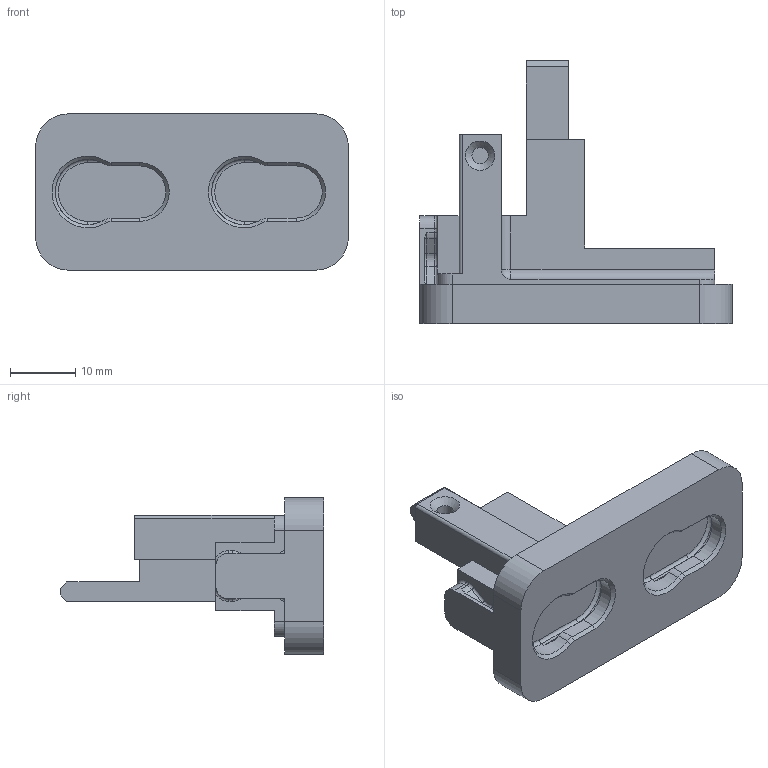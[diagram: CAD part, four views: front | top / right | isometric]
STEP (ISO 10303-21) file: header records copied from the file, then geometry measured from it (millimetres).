
FILE_DESCRIPTION(/* description */ ('STEP AP242 Edition 2','CAx-IF Rec.Pracs.---Representation and Presentation of Product Manufacturing Information (PMI)---4.0---2014-10-13','CAx-IF Rec.Pracs.---3D Tessellated Geometry---0.4---2014-09-14','2;1','CAx-IF Rec.Pracs.---User Defined Attributes---1.5---2016-08-15'),/* implementation_level */ '2;1');
FILE_NAME(/* name */ 'bb_v3 - bb-structure',/* time_stamp */ '2026-05-01T07:59:49Z',/* author */ (''),/* organization */ (''),/* preprocessor_version */ 'ST-DEVELOPER v20',/* originating_system */ 'ONSHAPE BY PTC INC, 1.214',/* authorisation */ ' ');
FILE_SCHEMA (('AP242_MANAGED_MODEL_BASED_3D_ENGINEERING_MIM_LF { 1 0 10303 442 3 1 4 }'));
Length unit declared in the file: metre
Products named in the file (1): bb-structure
Bounding box: 48 x 40.43 x 24 mm (x, y, z)
Volume: 10138.7 mm3; surface area: 5645.3 mm2
Topology: 1 solids, 1 shells, 137 faces, 346 edges, 215 vertices
Faces by surface type: plane 61, cylinder 50, torus 16, cone 9, sphere 1
Full cylindrical faces by diameter (mm): 2.5 x3
Entity records: 4077 total; most frequent: DIRECTION 733, CARTESIAN_POINT 714, ORIENTED_EDGE 678, EDGE_CURVE 339, AXIS2_PLACEMENT_3D 264, VERTEX_POINT 213, LINE 205, VECTOR 205
